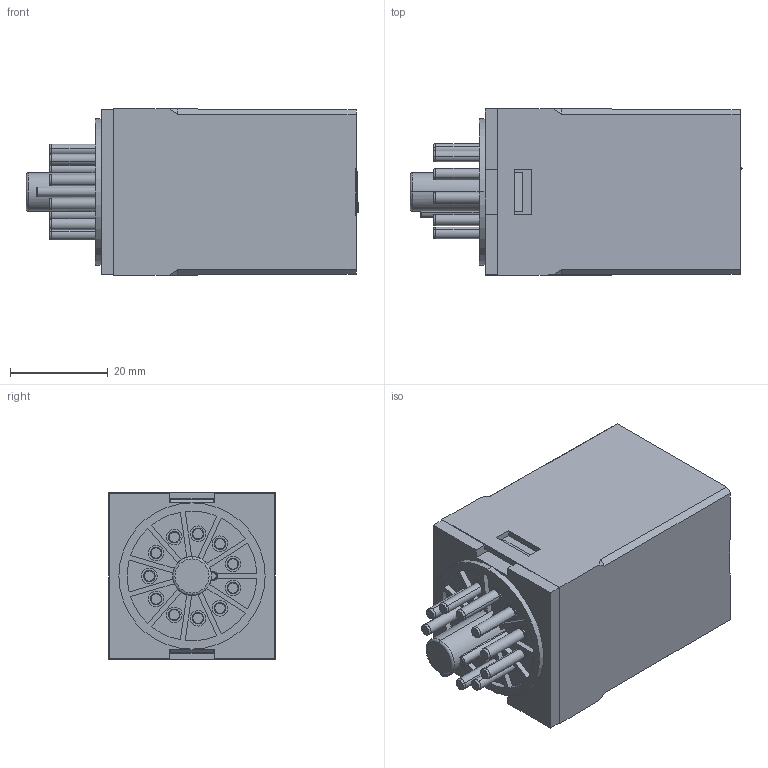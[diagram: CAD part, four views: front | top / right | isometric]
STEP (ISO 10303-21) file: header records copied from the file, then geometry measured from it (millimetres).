
FILE_DESCRIPTION (( 'STEP AP203' ), '1' );
FILE_NAME ('RUB3C 俋倛.STEP', '2022-12-26T01:58:09', ( '' ), ( '' ), 'SwSTEP 2.0', 'SolidWorks 2018', '' );
FILE_SCHEMA (( 'CONFIG_CONTROL_DESIGN' ));
Length unit declared in the file: millimetre
Products named in the file (1): RUB3C 俋倛
Bounding box: 68.1 x 34.2 x 34.2 mm (x, y, z)
Volume: 61324.7 mm3; surface area: 13490.8 mm2
Topology: 1 solids, 2 shells, 365 faces, 939 edges, 611 vertices
Faces by surface type: plane 226, cylinder 94, cone 40, torus 3, bspline 2
Entity records: 11419 total; most frequent: CARTESIAN_POINT 2180, DIRECTION 1924, ORIENTED_EDGE 1874, EDGE_CURVE 937, LINE 646, VECTOR 646, AXIS2_PLACEMENT_3D 639, VERTEX_POINT 611
